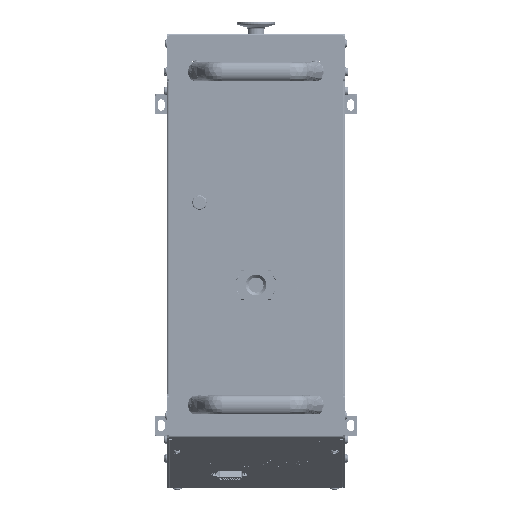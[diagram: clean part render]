
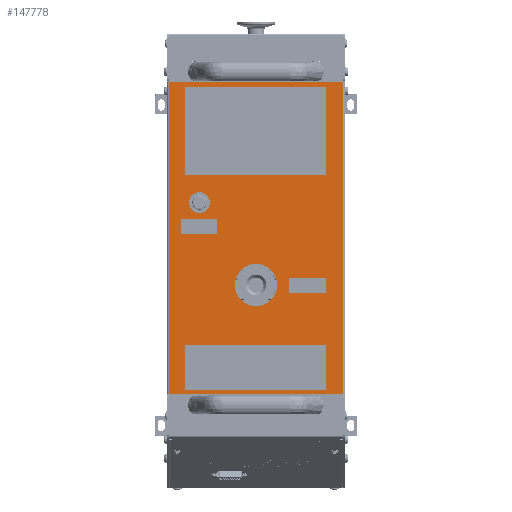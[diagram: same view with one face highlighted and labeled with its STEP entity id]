
A CAD part, top view. The second image highlights one B-rep face of the part: STEP entity #147778.
In plain terms, the highlighted planar face has unit normal (0, 0, 1).
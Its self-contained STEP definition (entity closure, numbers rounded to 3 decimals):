
#4466=FACE_BOUND('',#14457,.T.);
#4467=FACE_BOUND('',#14458,.T.);
#6236=FACE_OUTER_BOUND('',#14456,.T.);
#14456=EDGE_LOOP('',(#94421,#94422,#94423,#94424));
#14457=EDGE_LOOP('',(#94425));
#14458=EDGE_LOOP('',(#94426));
#23987=CIRCLE('',#156664,22.5);
#23988=CIRCLE('',#156665,11.);
#25985=LINE('',#202878,#42775);
#25986=LINE('',#202880,#42776);
#25987=LINE('',#202882,#42777);
#25988=LINE('',#202883,#42778);
#42775=VECTOR('',#167051,1000.);
#42776=VECTOR('',#167052,1000.);
#42777=VECTOR('',#167053,1000.);
#42778=VECTOR('',#167054,1000.);
#59573=VERTEX_POINT('',#202876);
#59574=VERTEX_POINT('',#202877);
#59575=VERTEX_POINT('',#202879);
#59576=VERTEX_POINT('',#202881);
#59577=VERTEX_POINT('',#202884);
#59578=VERTEX_POINT('',#202886);
#73488=EDGE_CURVE('',#59573,#59574,#25985,.T.);
#73489=EDGE_CURVE('',#59574,#59575,#25986,.T.);
#73490=EDGE_CURVE('',#59575,#59576,#25987,.T.);
#73491=EDGE_CURVE('',#59573,#59576,#25988,.T.);
#73492=EDGE_CURVE('',#59577,#59577,#23987,.T.);
#73493=EDGE_CURVE('',#59578,#59578,#23988,.T.);
#94421=ORIENTED_EDGE('',*,*,#73488,.T.);
#94422=ORIENTED_EDGE('',*,*,#73489,.T.);
#94423=ORIENTED_EDGE('',*,*,#73490,.T.);
#94424=ORIENTED_EDGE('',*,*,#73491,.F.);
#94425=ORIENTED_EDGE('',*,*,#73492,.T.);
#94426=ORIENTED_EDGE('',*,*,#73493,.F.);
#134082=PLANE('',#156663);
#147778=ADVANCED_FACE('',(#6236,#4466,#4467),#134082,.F.);
#156663=AXIS2_PLACEMENT_3D('',#202875,#167049,#167050);
#156664=AXIS2_PLACEMENT_3D('',#202885,#167055,#167056);
#156665=AXIS2_PLACEMENT_3D('',#202887,#167057,#167058);
#167049=DIRECTION('center_axis',(0.,0.,-1.));
#167050=DIRECTION('ref_axis',(0.,1.,0.));
#167051=DIRECTION('',(0.,-1.,0.));
#167052=DIRECTION('',(1.,0.,0.));
#167053=DIRECTION('',(0.,1.,0.));
#167054=DIRECTION('',(1.,0.,0.));
#167055=DIRECTION('center_axis',(0.,0.,-1.));
#167056=DIRECTION('ref_axis',(0.,1.,0.));
#167057=DIRECTION('center_axis',(0.,0.,1.));
#167058=DIRECTION('ref_axis',(1.,0.,0.));
#202875=CARTESIAN_POINT('Origin',(170.,-92.911,121.25));
#202876=CARTESIAN_POINT('',(-161.5,92.,121.25));
#202877=CARTESIAN_POINT('',(-161.5,-92.,121.25));
#202878=CARTESIAN_POINT('',(-161.5,-92.911,121.25));
#202879=CARTESIAN_POINT('',(170.,-92.,121.25));
#202880=CARTESIAN_POINT('',(-161.5,-92.,121.25));
#202881=CARTESIAN_POINT('',(170.,92.,121.25));
#202882=CARTESIAN_POINT('',(170.,-92.911,121.25));
#202883=CARTESIAN_POINT('',(-161.5,92.,121.25));
#202884=CARTESIAN_POINT('',(-45.5,22.5,121.25));
#202885=CARTESIAN_POINT('Origin',(-45.5,0.,121.25));
#202886=CARTESIAN_POINT('',(53.,60.,121.25));
#202887=CARTESIAN_POINT('Origin',(42.,60.,121.25));
